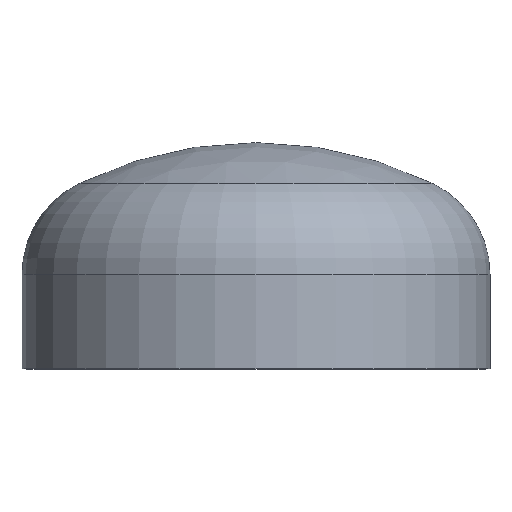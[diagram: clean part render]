
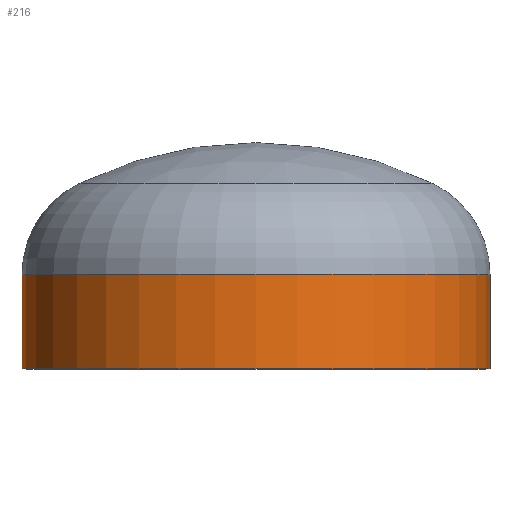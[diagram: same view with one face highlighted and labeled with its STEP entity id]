
A CAD part, top view. The second image highlights one B-rep face of the part: STEP entity #216.
In plain terms, the highlighted cylindrical face has radius 136.5 mm (diameter 273 mm), a partial arc.
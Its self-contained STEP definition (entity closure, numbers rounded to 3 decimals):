
#20 = EDGE_LOOP ( 'NONE', ( #120, #106, #146, #35 ) ) ;
#31 = CYLINDRICAL_SURFACE ( 'NONE', #33, 136.5 ) ;
#33 = AXIS2_PLACEMENT_3D ( 'NONE', #376, #196, #64 ) ;
#35 = ORIENTED_EDGE ( 'NONE', *, *, #334, .F. ) ;
#36 = AXIS2_PLACEMENT_3D ( 'NONE', #337, #262, #138 ) ;
#37 = VERTEX_POINT ( 'NONE', #251 ) ;
#50 = CARTESIAN_POINT ( 'NONE',  ( -136.5, 0., 0. ) ) ;
#64 = DIRECTION ( 'NONE',  ( 1., 0., 0. ) ) ;
#67 = FACE_OUTER_BOUND ( 'NONE', #20, .T. ) ;
#98 = AXIS2_PLACEMENT_3D ( 'NONE', #331, #330, #379 ) ;
#99 = VERTEX_POINT ( 'NONE', #250 ) ;
#106 = ORIENTED_EDGE ( 'NONE', *, *, #346, .T. ) ;
#107 = VERTEX_POINT ( 'NONE', #234 ) ;
#120 = ORIENTED_EDGE ( 'NONE', *, *, #130, .T. ) ;
#130 = EDGE_CURVE ( 'NONE', #107, #99, #395, .T. ) ;
#138 = DIRECTION ( 'NONE',  ( 1., 0., 0. ) ) ;
#146 = ORIENTED_EDGE ( 'NONE', *, *, #341, .F. ) ;
#161 = VECTOR ( 'NONE', #335, 1000. ) ;
#165 = VERTEX_POINT ( 'NONE', #197 ) ;
#184 = DIRECTION ( 'NONE',  ( 0., -1., 0. ) ) ;
#185 = CARTESIAN_POINT ( 'NONE',  ( 136.5, 0., 0. ) ) ;
#196 = DIRECTION ( 'NONE',  ( 0., -1., 0. ) ) ;
#197 = CARTESIAN_POINT ( 'NONE',  ( -136.5, 0., 0. ) ) ;
#216 = ADVANCED_FACE ( 'NONE', ( #67 ), #31, .T. ) ;
#234 = CARTESIAN_POINT ( 'NONE',  ( 136.5, 55., 0. ) ) ;
#250 = CARTESIAN_POINT ( 'NONE',  ( -136.5, 55., 0. ) ) ;
#251 = CARTESIAN_POINT ( 'NONE',  ( 136.5, 0., 0. ) ) ;
#252 = LINE ( 'NONE', #185, #351 ) ;
#262 = DIRECTION ( 'NONE',  ( 0., -1., 0. ) ) ;
#292 = LINE ( 'NONE', #50, #161 ) ;
#330 = DIRECTION ( 'NONE',  ( 0., -1., 0. ) ) ;
#331 = CARTESIAN_POINT ( 'NONE',  ( 0., 55., 0. ) ) ;
#334 = EDGE_CURVE ( 'NONE', #107, #37, #252, .T. ) ;
#335 = DIRECTION ( 'NONE',  ( 0., -1., 0. ) ) ;
#337 = CARTESIAN_POINT ( 'NONE',  ( 0., 0., 0. ) ) ;
#341 = EDGE_CURVE ( 'NONE', #37, #165, #360, .T. ) ;
#346 = EDGE_CURVE ( 'NONE', #99, #165, #292, .T. ) ;
#351 = VECTOR ( 'NONE', #184, 1000. ) ;
#360 = CIRCLE ( 'NONE', #36, 136.5 ) ;
#376 = CARTESIAN_POINT ( 'NONE',  ( 0., 0., 0. ) ) ;
#379 = DIRECTION ( 'NONE',  ( 1., 0., 0. ) ) ;
#395 = CIRCLE ( 'NONE', #98, 136.5 ) ;
